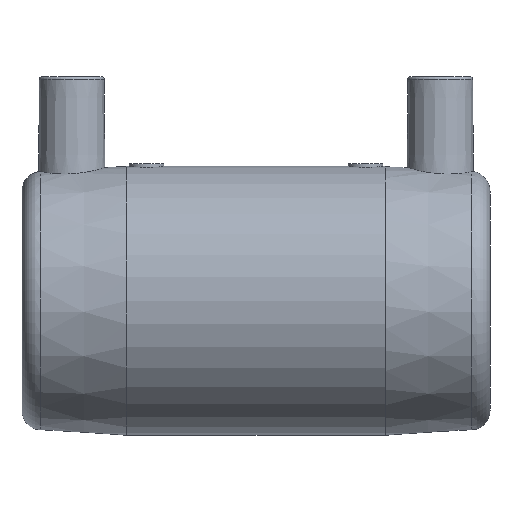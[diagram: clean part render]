
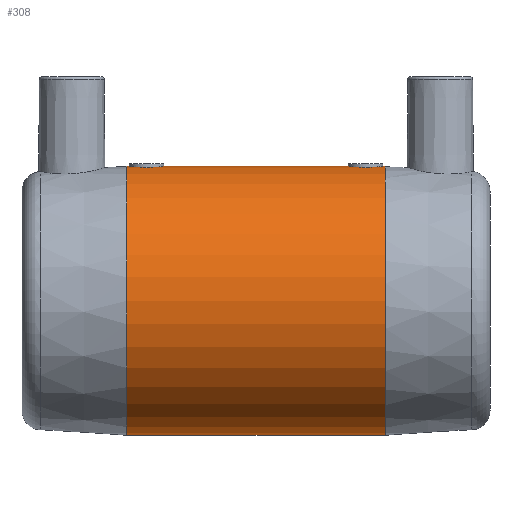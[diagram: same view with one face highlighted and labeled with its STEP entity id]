
A CAD part, front view. The second image highlights one B-rep face of the part: STEP entity #308.
In plain terms, the highlighted cylindrical face has radius 27 mm (diameter 54 mm), a full revolution.
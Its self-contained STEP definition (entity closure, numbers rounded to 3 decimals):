
#30=CYLINDRICAL_SURFACE('',#355,27.);
#48=B_SPLINE_CURVE_WITH_KNOTS('',3,(#562,#563,#564,#565,#566,#567,#568,
#569,#570,#571,#572),.UNSPECIFIED.,.T.,.F.,(1,1,1,1,1,1,1,1,1,1,1,1,1,1,
1),(-0.008,-0.005,-0.003,0.,
0.003,0.005,0.008,0.011,
0.014,0.016,0.019,0.022,
0.025,0.027,0.03),.UNSPECIFIED.);
#49=B_SPLINE_CURVE_WITH_KNOTS('',3,(#574,#575,#576,#577,#578,#579,#580,
#581,#582,#583,#584),.UNSPECIFIED.,.T.,.F.,(1,1,1,1,1,1,1,1,1,1,1,1,1,1,
1),(-0.008,-0.005,-0.003,0.,
0.003,0.005,0.008,0.011,
0.014,0.016,0.019,0.022,
0.025,0.027,0.03),.UNSPECIFIED.);
#62=ORIENTED_EDGE('',*,*,#120,.F.);
#63=ORIENTED_EDGE('',*,*,#121,.F.);
#64=ORIENTED_EDGE('',*,*,#122,.T.);
#65=ORIENTED_EDGE('',*,*,#123,.T.);
#120=EDGE_CURVE('',#148,#148,#48,.T.);
#121=EDGE_CURVE('',#149,#149,#49,.T.);
#122=EDGE_CURVE('',#150,#150,#174,.F.);
#123=EDGE_CURVE('',#151,#151,#175,.T.);
#148=VERTEX_POINT('',#573);
#149=VERTEX_POINT('',#585);
#150=VERTEX_POINT('',#587);
#151=VERTEX_POINT('',#589);
#174=CIRCLE('',#356,27.);
#175=CIRCLE('',#357,27.);
#200=EDGE_LOOP('',(#62));
#201=EDGE_LOOP('',(#63));
#202=EDGE_LOOP('',(#64));
#203=EDGE_LOOP('',(#65));
#254=FACE_BOUND('',#200,.T.);
#255=FACE_BOUND('',#201,.T.);
#256=FACE_BOUND('',#202,.T.);
#257=FACE_BOUND('',#203,.T.);
#308=ADVANCED_FACE('',(#254,#255,#256,#257),#30,.T.);
#355=AXIS2_PLACEMENT_3D('',#561,#419,#420);
#356=AXIS2_PLACEMENT_3D('',#586,#421,#422);
#357=AXIS2_PLACEMENT_3D('',#588,#423,#424);
#419=DIRECTION('',(-1.,0.,0.));
#420=DIRECTION('',(0.,0.,1.));
#421=DIRECTION('',(1.,0.,0.));
#422=DIRECTION('',(0.,0.,-1.));
#423=DIRECTION('',(1.,0.,0.));
#424=DIRECTION('',(0.,0.,-1.));
#561=CARTESIAN_POINT('',(-60.,0.,0.));
#562=CARTESIAN_POINT('',(24.74,-2.746,26.886));
#563=CARTESIAN_POINT('',(25.88,0.001,27.057));
#564=CARTESIAN_POINT('',(24.741,2.743,26.887));
#565=CARTESIAN_POINT('',(22.003,3.878,26.715));
#566=CARTESIAN_POINT('',(19.258,2.744,26.886));
#567=CARTESIAN_POINT('',(18.122,0.001,27.057));
#568=CARTESIAN_POINT('',(19.255,-2.739,26.887));
#569=CARTESIAN_POINT('',(21.997,-3.879,26.715));
#570=CARTESIAN_POINT('',(24.74,-2.746,26.886));
#571=CARTESIAN_POINT('',(25.88,0.001,27.057));
#572=CARTESIAN_POINT('',(24.741,2.743,26.887));
#573=CARTESIAN_POINT('',(25.5,0.,27.));
#574=CARTESIAN_POINT('',(-19.26,-2.746,26.886));
#575=CARTESIAN_POINT('',(-18.12,0.001,27.057));
#576=CARTESIAN_POINT('',(-19.259,2.743,26.887));
#577=CARTESIAN_POINT('',(-21.997,3.878,26.715));
#578=CARTESIAN_POINT('',(-24.742,2.744,26.886));
#579=CARTESIAN_POINT('',(-25.878,0.001,27.057));
#580=CARTESIAN_POINT('',(-24.745,-2.739,26.887));
#581=CARTESIAN_POINT('',(-22.003,-3.879,26.715));
#582=CARTESIAN_POINT('',(-19.26,-2.746,26.886));
#583=CARTESIAN_POINT('',(-18.12,0.001,27.057));
#584=CARTESIAN_POINT('',(-19.259,2.743,26.887));
#585=CARTESIAN_POINT('',(-18.5,0.,27.));
#586=CARTESIAN_POINT('',(25.971,0.,0.));
#587=CARTESIAN_POINT('',(25.971,0.,-27.));
#588=CARTESIAN_POINT('',(-25.971,0.,0.));
#589=CARTESIAN_POINT('',(-25.971,0.,-27.));
